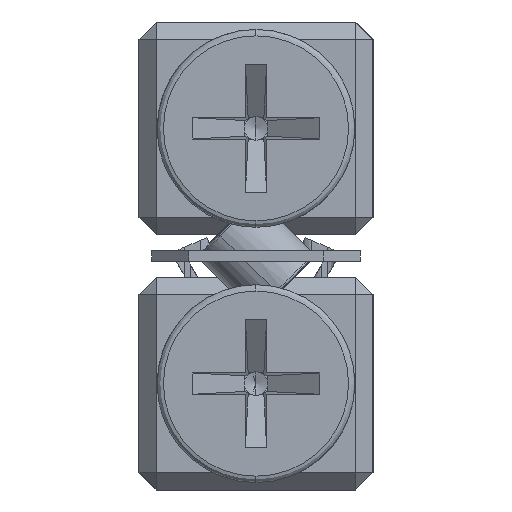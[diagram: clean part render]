
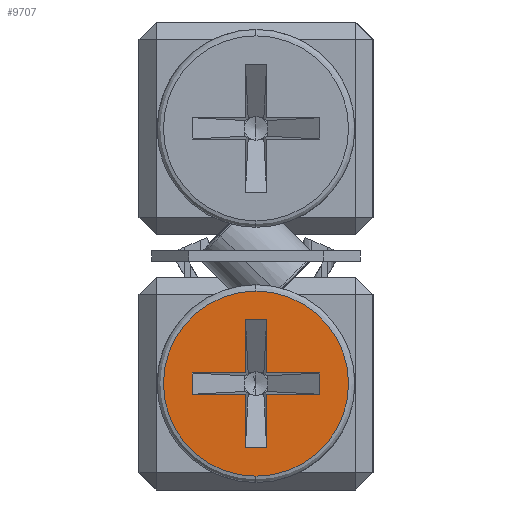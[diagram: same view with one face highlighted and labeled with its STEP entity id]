
A CAD part, left-side view. The second image highlights one B-rep face of the part: STEP entity #9707.
In plain terms, the highlighted planar face has unit normal (-1, 0, 0).
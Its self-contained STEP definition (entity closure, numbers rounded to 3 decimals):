
#183 = EDGE_CURVE ( 'NONE', #23900, #20964, #30588, .T. ) ;
#791 = CARTESIAN_POINT ( 'NONE',  ( -202., 0.5, 2. ) ) ;
#1321 = VECTOR ( 'NONE', #14449, 1000. ) ;
#1591 = DIRECTION ( 'NONE',  ( 1., 0., 0. ) ) ;
#1835 = ORIENTED_EDGE ( 'NONE', *, *, #24842, .T. ) ;
#1988 = VECTOR ( 'NONE', #27644, 1000. ) ;
#2469 = ORIENTED_EDGE ( 'NONE', *, *, #10031, .T. ) ;
#2675 = DIRECTION ( 'NONE',  ( 0., 0., -1. ) ) ;
#3427 = FACE_OUTER_BOUND ( 'NONE', #35977, .T. ) ;
#4299 = VERTEX_POINT ( 'NONE', #12087 ) ;
#4884 = VERTEX_POINT ( 'NONE', #33831 ) ;
#4897 = CARTESIAN_POINT ( 'NONE',  ( -202., 0.5, 8. ) ) ;
#4982 = CARTESIAN_POINT ( 'NONE',  ( -202., 4.65, 5. ) ) ;
#5088 = CARTESIAN_POINT ( 'NONE',  ( -202., -0.5, 2. ) ) ;
#5508 = ORIENTED_EDGE ( 'NONE', *, *, #40376, .T. ) ;
#5738 = ORIENTED_EDGE ( 'NONE', *, *, #11795, .F. ) ;
#7253 = CARTESIAN_POINT ( 'NONE',  ( -202., -0.5, 8. ) ) ;
#7328 = LINE ( 'NONE', #14612, #25708 ) ;
#7546 = VERTEX_POINT ( 'NONE', #10021 ) ;
#8047 = VERTEX_POINT ( 'NONE', #5088 ) ;
#8511 = ORIENTED_EDGE ( 'NONE', *, *, #21850, .T. ) ;
#8615 = AXIS2_PLACEMENT_3D ( 'NONE', #15892, #23406, #2675 ) ;
#8715 = VECTOR ( 'NONE', #31685, 1000. ) ;
#8897 = ORIENTED_EDGE ( 'NONE', *, *, #42516, .T. ) ;
#9018 = ORIENTED_EDGE ( 'NONE', *, *, #40638, .F. ) ;
#9148 = CARTESIAN_POINT ( 'NONE',  ( -202., 0., 5. ) ) ;
#9175 = VERTEX_POINT ( 'NONE', #21253 ) ;
#9707 = ADVANCED_FACE ( 'NONE', ( #3427, #17341 ), #31183, .F. ) ;
#10021 = CARTESIAN_POINT ( 'NONE',  ( -202., 0.5, 4.5 ) ) ;
#10031 = EDGE_CURVE ( 'NONE', #9175, #34875, #31580, .T. ) ;
#10072 = VECTOR ( 'NONE', #42544, 1000. ) ;
#10592 = DIRECTION ( 'NONE',  ( 0., 0., 1. ) ) ;
#10733 = DIRECTION ( 'NONE',  ( 0., 1., 0. ) ) ;
#11546 = DIRECTION ( 'NONE',  ( 0., -1., 0. ) ) ;
#11694 = DIRECTION ( 'NONE',  ( 0., 0., -1. ) ) ;
#11770 = CARTESIAN_POINT ( 'NONE',  ( -202., 0.5, 2. ) ) ;
#11795 = EDGE_CURVE ( 'NONE', #23900, #4299, #38763, .T. ) ;
#12087 = CARTESIAN_POINT ( 'NONE',  ( -202., 3., 4.5 ) ) ;
#12283 = EDGE_CURVE ( 'NONE', #16869, #8047, #20985, .T. ) ;
#12573 = CIRCLE ( 'NONE', #38012, 4.35 ) ;
#13299 = CARTESIAN_POINT ( 'NONE',  ( -202., -3., 4.5 ) ) ;
#13995 = AXIS2_PLACEMENT_3D ( 'NONE', #4982, #1591, #25499 ) ;
#14029 = VERTEX_POINT ( 'NONE', #13299 ) ;
#14043 = VECTOR ( 'NONE', #29345, 1000. ) ;
#14142 = EDGE_CURVE ( 'NONE', #34875, #41604, #31252, .T. ) ;
#14335 = DIRECTION ( 'NONE',  ( 0., 1., 0. ) ) ;
#14449 = DIRECTION ( 'NONE',  ( 0., 0., 1. ) ) ;
#14612 = CARTESIAN_POINT ( 'NONE',  ( -202., -3., 4.5 ) ) ;
#15014 = DIRECTION ( 'NONE',  ( 0., 1., 0. ) ) ;
#15892 = CARTESIAN_POINT ( 'NONE',  ( -202., 0., 5. ) ) ;
#16206 = ORIENTED_EDGE ( 'NONE', *, *, #41843, .F. ) ;
#16495 = DIRECTION ( 'NONE',  ( 0., -1., 0. ) ) ;
#16869 = VERTEX_POINT ( 'NONE', #44394 ) ;
#17341 = FACE_BOUND ( 'NONE', #25994, .T. ) ;
#17463 = VECTOR ( 'NONE', #10592, 1000. ) ;
#17983 = CARTESIAN_POINT ( 'NONE',  ( -202., -0.5, 8. ) ) ;
#18749 = VERTEX_POINT ( 'NONE', #4897 ) ;
#19074 = CARTESIAN_POINT ( 'NONE',  ( -202., 0.5, 5.5 ) ) ;
#19182 = DIRECTION ( 'NONE',  ( -1., 0., 0. ) ) ;
#20964 = VERTEX_POINT ( 'NONE', #19074 ) ;
#20985 = LINE ( 'NONE', #34833, #10072 ) ;
#21092 = ORIENTED_EDGE ( 'NONE', *, *, #183, .T. ) ;
#21253 = CARTESIAN_POINT ( 'NONE',  ( -202., -0.5, 8. ) ) ;
#21850 = EDGE_CURVE ( 'NONE', #7546, #4299, #7328, .T. ) ;
#22230 = CARTESIAN_POINT ( 'NONE',  ( -202., -3., 5.5 ) ) ;
#22519 = LINE ( 'NONE', #35933, #14043 ) ;
#22889 = VERTEX_POINT ( 'NONE', #33042 ) ;
#23406 = DIRECTION ( 'NONE',  ( -1., 0., 0. ) ) ;
#23900 = VERTEX_POINT ( 'NONE', #28785 ) ;
#23933 = ORIENTED_EDGE ( 'NONE', *, *, #31280, .T. ) ;
#24451 = CARTESIAN_POINT ( 'NONE',  ( -202., 3., 5.5 ) ) ;
#24842 = EDGE_CURVE ( 'NONE', #20964, #18749, #22519, .T. ) ;
#25499 = DIRECTION ( 'NONE',  ( 0., 0., -1. ) ) ;
#25708 = VECTOR ( 'NONE', #10733, 1000. ) ;
#25994 = EDGE_LOOP ( 'NONE', ( #1835, #33628, #2469, #28798, #16206, #8897, #31576, #9018, #23933, #8511, #5738, #21092 ) ) ;
#26187 = VECTOR ( 'NONE', #15014, 1000. ) ;
#26677 = VECTOR ( 'NONE', #14335, 1000. ) ;
#27082 = VECTOR ( 'NONE', #38198, 1000. ) ;
#27644 = DIRECTION ( 'NONE',  ( 0., 0., -1. ) ) ;
#27898 = LINE ( 'NONE', #41762, #17463 ) ;
#28252 = CIRCLE ( 'NONE', #8615, 4.35 ) ;
#28685 = VERTEX_POINT ( 'NONE', #44517 ) ;
#28785 = CARTESIAN_POINT ( 'NONE',  ( -202., 3., 5.5 ) ) ;
#28798 = ORIENTED_EDGE ( 'NONE', *, *, #14142, .T. ) ;
#28895 = LINE ( 'NONE', #38690, #26187 ) ;
#29345 = DIRECTION ( 'NONE',  ( 0., 0., 1. ) ) ;
#29767 = CARTESIAN_POINT ( 'NONE',  ( -202., -0.5, 5.5 ) ) ;
#30419 = EDGE_CURVE ( 'NONE', #9175, #18749, #34786, .T. ) ;
#30588 = LINE ( 'NONE', #41062, #37652 ) ;
#31183 = PLANE ( 'NONE',  #13995 ) ;
#31252 = LINE ( 'NONE', #42388, #8715 ) ;
#31280 = EDGE_CURVE ( 'NONE', #4884, #7546, #41752, .T. ) ;
#31576 = ORIENTED_EDGE ( 'NONE', *, *, #12283, .T. ) ;
#31580 = LINE ( 'NONE', #7253, #27082 ) ;
#31685 = DIRECTION ( 'NONE',  ( 0., -1., 0. ) ) ;
#33042 = CARTESIAN_POINT ( 'NONE',  ( -202., 0., 9.35 ) ) ;
#33628 = ORIENTED_EDGE ( 'NONE', *, *, #30419, .F. ) ;
#33831 = CARTESIAN_POINT ( 'NONE',  ( -202., 0.5, 2. ) ) ;
#34523 = ORIENTED_EDGE ( 'NONE', *, *, #37275, .T. ) ;
#34786 = LINE ( 'NONE', #17983, #26677 ) ;
#34833 = CARTESIAN_POINT ( 'NONE',  ( -202., -0.5, 8. ) ) ;
#34875 = VERTEX_POINT ( 'NONE', #29767 ) ;
#35933 = CARTESIAN_POINT ( 'NONE',  ( -202., 0.5, 2. ) ) ;
#35977 = EDGE_LOOP ( 'NONE', ( #34523, #5508 ) ) ;
#37275 = EDGE_CURVE ( 'NONE', #28685, #22889, #12573, .T. ) ;
#37652 = VECTOR ( 'NONE', #16495, 1000. ) ;
#38012 = AXIS2_PLACEMENT_3D ( 'NONE', #9148, #19182, #11694 ) ;
#38198 = DIRECTION ( 'NONE',  ( 0., 0., -1. ) ) ;
#38690 = CARTESIAN_POINT ( 'NONE',  ( -202., -3., 4.5 ) ) ;
#38763 = LINE ( 'NONE', #24451, #1988 ) ;
#40376 = EDGE_CURVE ( 'NONE', #22889, #28685, #28252, .T. ) ;
#40638 = EDGE_CURVE ( 'NONE', #4884, #8047, #42681, .T. ) ;
#41062 = CARTESIAN_POINT ( 'NONE',  ( -202., 3., 5.5 ) ) ;
#41604 = VERTEX_POINT ( 'NONE', #22230 ) ;
#41752 = LINE ( 'NONE', #791, #1321 ) ;
#41762 = CARTESIAN_POINT ( 'NONE',  ( -202., -3., 4.5 ) ) ;
#41843 = EDGE_CURVE ( 'NONE', #14029, #41604, #27898, .T. ) ;
#42388 = CARTESIAN_POINT ( 'NONE',  ( -202., 3., 5.5 ) ) ;
#42516 = EDGE_CURVE ( 'NONE', #14029, #16869, #28895, .T. ) ;
#42544 = DIRECTION ( 'NONE',  ( 0., 0., -1. ) ) ;
#42681 = LINE ( 'NONE', #11770, #44962 ) ;
#44394 = CARTESIAN_POINT ( 'NONE',  ( -202., -0.5, 4.5 ) ) ;
#44517 = CARTESIAN_POINT ( 'NONE',  ( -202., 0., 0.65 ) ) ;
#44962 = VECTOR ( 'NONE', #11546, 1000. ) ;
